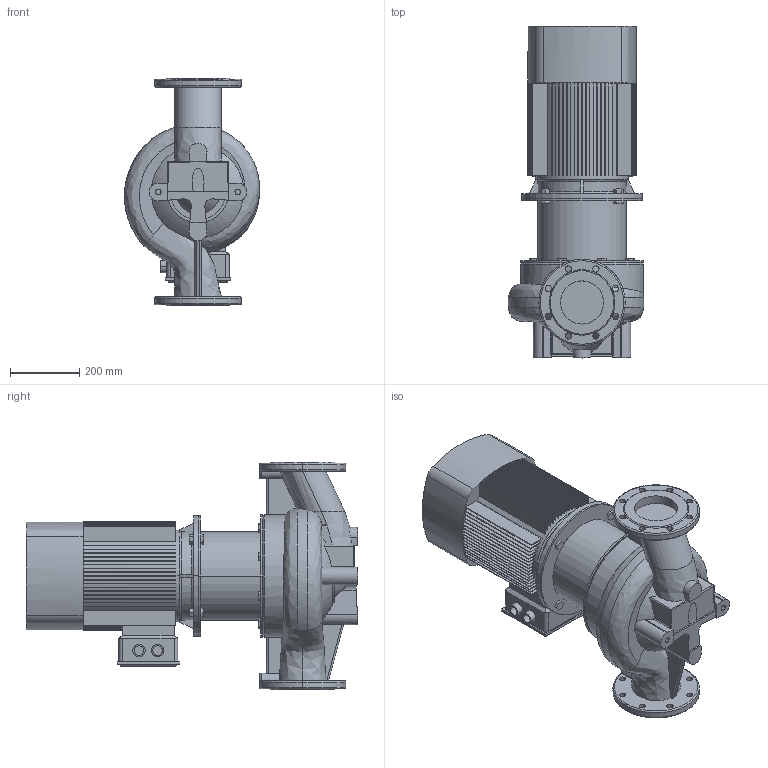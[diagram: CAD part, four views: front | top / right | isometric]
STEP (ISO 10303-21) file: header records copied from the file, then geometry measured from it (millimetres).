
FILE_DESCRIPTION (( 'STEP AP203' ), '1' );
FILE_NAME ('TD125-19G_4.STEP', '2022-05-02T19:17:34', ( '' ), ( '' ), 'SwSTEP 2.0', 'SolidWorks 2019', '' );
FILE_SCHEMA (( 'CONFIG_CONTROL_DESIGN' ));
Length unit declared in the file: millimetre
Products named in the file (4): Pr_ch 125_TD125-19G_4; TD125-19G_4; ED_B5_YE2-160M-4 (11); Fon_125_TD125-19G_4
Assembly tree (3 placements, depth 2):
  TD125-19G_4
    Pr_ch 125_TD125-19G_4
    Fon_125_TD125-19G_4
    ED_B5_YE2-160M-4 (11)
Bounding box: 391.64 x 961 x 660 mm (x, y, z)
Volume: 67453213.4 mm3; surface area: 3220191.6 mm2
Topology: 5 solids, 9 shells, 742 faces, 2024 edges, 1336 vertices
Faces by surface type: plane 498, cylinder 160, torus 35, bspline 30, cone 17, sphere 2
Entity records: 31695 total; most frequent: CARTESIAN_POINT 12260, ORIENTED_EDGE 4040, DIRECTION 3937, EDGE_CURVE 2020, AXIS2_PLACEMENT_3D 1372, VERTEX_POINT 1336, LINE 1193, VECTOR 1193
